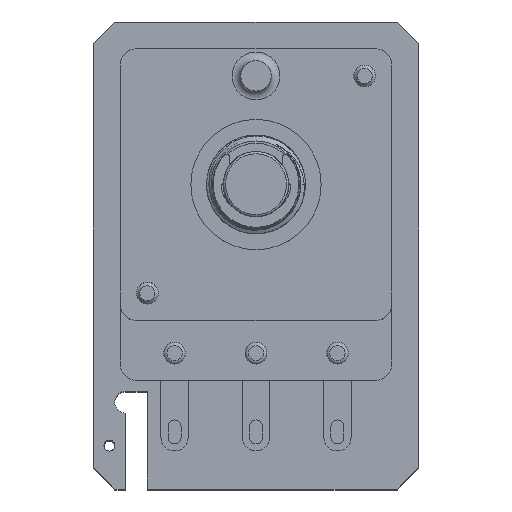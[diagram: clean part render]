
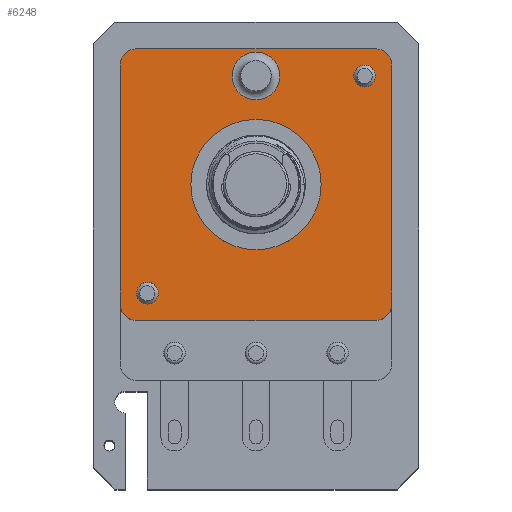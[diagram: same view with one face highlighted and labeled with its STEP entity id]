
A CAD part, top view. The second image highlights one B-rep face of the part: STEP entity #6248.
In plain terms, the highlighted planar face has unit normal (0, 0, 1).
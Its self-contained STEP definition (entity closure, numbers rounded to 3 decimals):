
#6218 = EDGE_CURVE('',#6219,#6219,#6221,.T.);
#6219 = VERTEX_POINT('',#6220);
#6220 = CARTESIAN_POINT('',(6.,0.,-1.));
#6221 = CIRCLE('',#6222,6.);
#6222 = AXIS2_PLACEMENT_3D('',#6223,#6224,#6225);
#6223 = CARTESIAN_POINT('',(0.,0.,-1.));
#6224 = DIRECTION('',(0.,0.,1.));
#6225 = DIRECTION('',(1.,0.,-0.));
#6248 = ADVANCED_FACE('',(#6249,#6319,#6330,#6333,#6344),#6355,.T.);
#6249 = FACE_BOUND('',#6250,.T.);
#6250 = EDGE_LOOP('',(#6251,#6261,#6270,#6278,#6287,#6295,#6304,#6312));
#6251 = ORIENTED_EDGE('',*,*,#6252,.F.);
#6252 = EDGE_CURVE('',#6253,#6255,#6257,.T.);
#6253 = VERTEX_POINT('',#6254);
#6254 = CARTESIAN_POINT('',(-12.5,-11.,-1.));
#6255 = VERTEX_POINT('',#6256);
#6256 = CARTESIAN_POINT('',(-12.5,11.,-1.));
#6257 = LINE('',#6258,#6259);
#6258 = CARTESIAN_POINT('',(-12.5,-12.5,-1.));
#6259 = VECTOR('',#6260,1.);
#6260 = DIRECTION('',(0.,1.,0.));
#6261 = ORIENTED_EDGE('',*,*,#6262,.T.);
#6262 = EDGE_CURVE('',#6253,#6263,#6265,.T.);
#6263 = VERTEX_POINT('',#6264);
#6264 = CARTESIAN_POINT('',(-11.,-12.5,-1.));
#6265 = CIRCLE('',#6266,1.5);
#6266 = AXIS2_PLACEMENT_3D('',#6267,#6268,#6269);
#6267 = CARTESIAN_POINT('',(-11.,-11.,-1.));
#6268 = DIRECTION('',(-0.,0.,1.));
#6269 = DIRECTION('',(0.,-1.,0.));
#6270 = ORIENTED_EDGE('',*,*,#6271,.T.);
#6271 = EDGE_CURVE('',#6263,#6272,#6274,.T.);
#6272 = VERTEX_POINT('',#6273);
#6273 = CARTESIAN_POINT('',(11.,-12.5,-1.));
#6274 = LINE('',#6275,#6276);
#6275 = CARTESIAN_POINT('',(-12.5,-12.5,-1.));
#6276 = VECTOR('',#6277,1.);
#6277 = DIRECTION('',(1.,0.,0.));
#6278 = ORIENTED_EDGE('',*,*,#6279,.T.);
#6279 = EDGE_CURVE('',#6272,#6280,#6282,.T.);
#6280 = VERTEX_POINT('',#6281);
#6281 = CARTESIAN_POINT('',(12.5,-11.,-1.));
#6282 = CIRCLE('',#6283,1.5);
#6283 = AXIS2_PLACEMENT_3D('',#6284,#6285,#6286);
#6284 = CARTESIAN_POINT('',(11.,-11.,-1.));
#6285 = DIRECTION('',(-0.,0.,1.));
#6286 = DIRECTION('',(0.,-1.,0.));
#6287 = ORIENTED_EDGE('',*,*,#6288,.T.);
#6288 = EDGE_CURVE('',#6280,#6289,#6291,.T.);
#6289 = VERTEX_POINT('',#6290);
#6290 = CARTESIAN_POINT('',(12.5,11.,-1.));
#6291 = LINE('',#6292,#6293);
#6292 = CARTESIAN_POINT('',(12.5,-12.5,-1.));
#6293 = VECTOR('',#6294,1.);
#6294 = DIRECTION('',(0.,1.,0.));
#6295 = ORIENTED_EDGE('',*,*,#6296,.F.);
#6296 = EDGE_CURVE('',#6297,#6289,#6299,.T.);
#6297 = VERTEX_POINT('',#6298);
#6298 = CARTESIAN_POINT('',(11.,12.5,-1.));
#6299 = CIRCLE('',#6300,1.5);
#6300 = AXIS2_PLACEMENT_3D('',#6301,#6302,#6303);
#6301 = CARTESIAN_POINT('',(11.,11.,-1.));
#6302 = DIRECTION('',(-0.,-0.,-1.));
#6303 = DIRECTION('',(0.,-1.,0.));
#6304 = ORIENTED_EDGE('',*,*,#6305,.F.);
#6305 = EDGE_CURVE('',#6306,#6297,#6308,.T.);
#6306 = VERTEX_POINT('',#6307);
#6307 = CARTESIAN_POINT('',(-11.,12.5,-1.));
#6308 = LINE('',#6309,#6310);
#6309 = CARTESIAN_POINT('',(-12.5,12.5,-1.));
#6310 = VECTOR('',#6311,1.);
#6311 = DIRECTION('',(1.,0.,0.));
#6312 = ORIENTED_EDGE('',*,*,#6313,.F.);
#6313 = EDGE_CURVE('',#6255,#6306,#6314,.T.);
#6314 = CIRCLE('',#6315,1.5);
#6315 = AXIS2_PLACEMENT_3D('',#6316,#6317,#6318);
#6316 = CARTESIAN_POINT('',(-11.,11.,-1.));
#6317 = DIRECTION('',(-0.,-0.,-1.));
#6318 = DIRECTION('',(0.,-1.,0.));
#6319 = FACE_BOUND('',#6320,.T.);
#6320 = EDGE_LOOP('',(#6321));
#6321 = ORIENTED_EDGE('',*,*,#6322,.T.);
#6322 = EDGE_CURVE('',#6323,#6323,#6325,.T.);
#6323 = VERTEX_POINT('',#6324);
#6324 = CARTESIAN_POINT('',(-9.,-10.,-1.));
#6325 = CIRCLE('',#6326,1.);
#6326 = AXIS2_PLACEMENT_3D('',#6327,#6328,#6329);
#6327 = CARTESIAN_POINT('',(-10.,-10.,-1.));
#6328 = DIRECTION('',(0.,0.,-1.));
#6329 = DIRECTION('',(1.,0.,0.));
#6330 = FACE_BOUND('',#6331,.T.);
#6331 = EDGE_LOOP('',(#6332));
#6332 = ORIENTED_EDGE('',*,*,#6218,.F.);
#6333 = FACE_BOUND('',#6334,.T.);
#6334 = EDGE_LOOP('',(#6335));
#6335 = ORIENTED_EDGE('',*,*,#6336,.F.);
#6336 = EDGE_CURVE('',#6337,#6337,#6339,.T.);
#6337 = VERTEX_POINT('',#6338);
#6338 = CARTESIAN_POINT('',(2.2,10.,-1.));
#6339 = CIRCLE('',#6340,2.2);
#6340 = AXIS2_PLACEMENT_3D('',#6341,#6342,#6343);
#6341 = CARTESIAN_POINT('',(0.,10.,-1.));
#6342 = DIRECTION('',(0.,0.,1.));
#6343 = DIRECTION('',(1.,0.,-0.));
#6344 = FACE_BOUND('',#6345,.T.);
#6345 = EDGE_LOOP('',(#6346));
#6346 = ORIENTED_EDGE('',*,*,#6347,.T.);
#6347 = EDGE_CURVE('',#6348,#6348,#6350,.T.);
#6348 = VERTEX_POINT('',#6349);
#6349 = CARTESIAN_POINT('',(11.,10.,-1.));
#6350 = CIRCLE('',#6351,1.);
#6351 = AXIS2_PLACEMENT_3D('',#6352,#6353,#6354);
#6352 = CARTESIAN_POINT('',(10.,10.,-1.));
#6353 = DIRECTION('',(0.,0.,-1.));
#6354 = DIRECTION('',(1.,0.,0.));
#6355 = PLANE('',#6356);
#6356 = AXIS2_PLACEMENT_3D('',#6357,#6358,#6359);
#6357 = CARTESIAN_POINT('',(-12.5,-12.5,-1.));
#6358 = DIRECTION('',(0.,0.,1.));
#6359 = DIRECTION('',(1.,0.,-0.));
